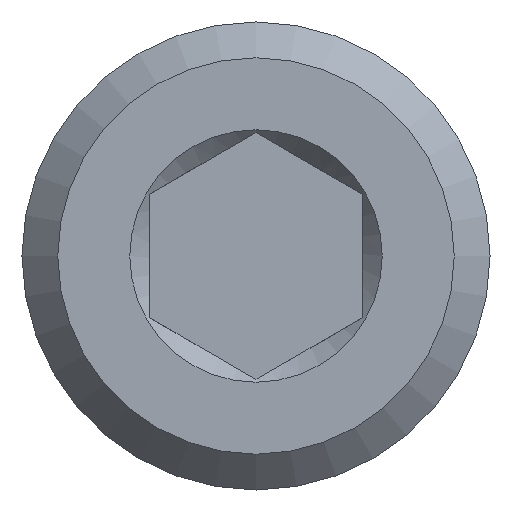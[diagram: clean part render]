
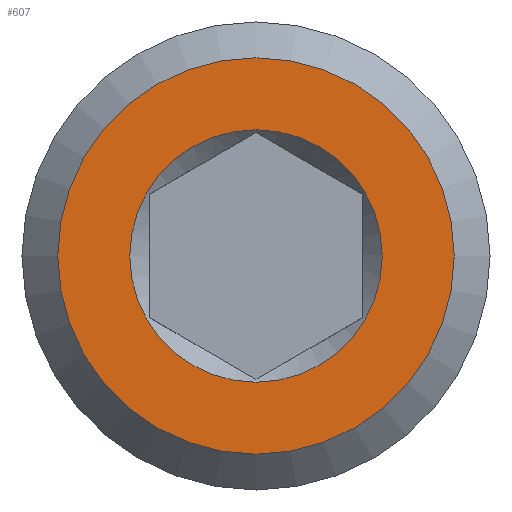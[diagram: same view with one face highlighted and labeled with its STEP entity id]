
A CAD part, front view. The second image highlights one B-rep face of the part: STEP entity #607.
In plain terms, the highlighted planar face has unit normal (0, -1, 0).
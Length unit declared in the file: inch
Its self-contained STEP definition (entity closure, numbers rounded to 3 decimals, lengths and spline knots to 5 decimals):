
#15=FACE_BOUND('',#130,.T.);
#57=CIRCLE('',#671,0.221);
#58=CIRCLE('',#673,0.347);
#94=FACE_OUTER_BOUND('',#129,.T.);
#129=EDGE_LOOP('',(#509));
#130=EDGE_LOOP('',(#510));
#285=VERTEX_POINT('',#1448);
#286=VERTEX_POINT('',#1452);
#370=EDGE_CURVE('',#285,#285,#57,.T.);
#371=EDGE_CURVE('',#286,#286,#58,.T.);
#509=ORIENTED_EDGE('',*,*,#371,.F.);
#510=ORIENTED_EDGE('',*,*,#370,.F.);
#576=PLANE('',#672);
#607=ADVANCED_FACE('',(#94,#15),#576,.T.);
#671=AXIS2_PLACEMENT_3D('',#1450,#812,#813);
#672=AXIS2_PLACEMENT_3D('',#1451,#814,#815);
#673=AXIS2_PLACEMENT_3D('',#1453,#816,#817);
#812=DIRECTION('center_axis',(0.,-1.,0.));
#813=DIRECTION('ref_axis',(0.,0.,1.));
#814=DIRECTION('center_axis',(0.,-1.,0.));
#815=DIRECTION('ref_axis',(0.,0.,-1.));
#816=DIRECTION('center_axis',(0.,1.,0.));
#817=DIRECTION('ref_axis',(0.,0.,1.));
#1448=CARTESIAN_POINT('',(0.,0.,-0.221));
#1450=CARTESIAN_POINT('Origin',(0.,0.,0.));
#1451=CARTESIAN_POINT('Origin',(0.,0.,-0.186));
#1452=CARTESIAN_POINT('',(0.,0.,-0.347));
#1453=CARTESIAN_POINT('Origin',(0.,0.,0.));
